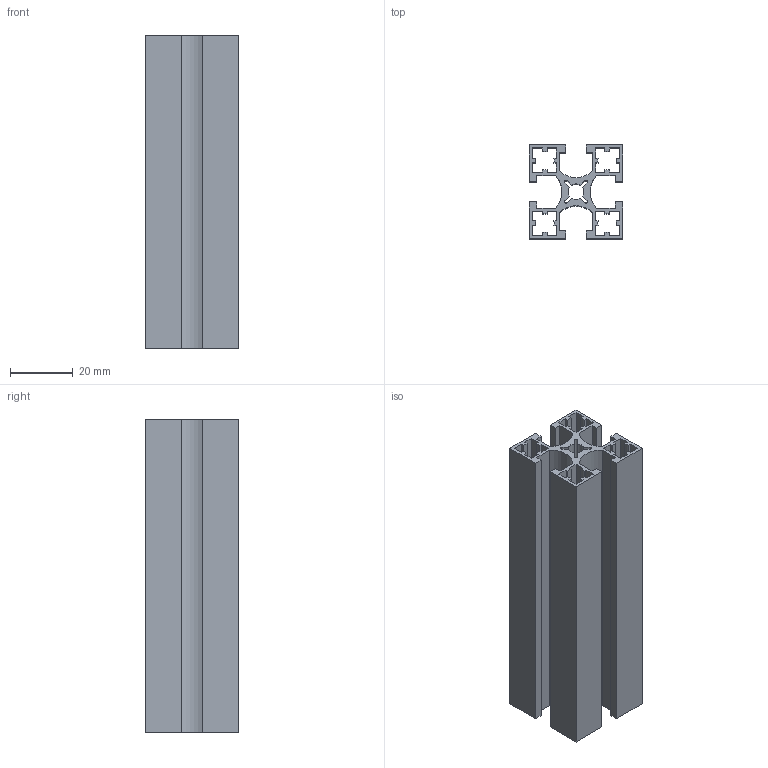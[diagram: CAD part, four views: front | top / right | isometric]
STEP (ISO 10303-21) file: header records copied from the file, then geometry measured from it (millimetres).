
FILE_DESCRIPTION(/* description */ ('Unknown'),/* implementation_level */ '2;1');
FILE_NAME(/* name */ 'NM3030A',/* time_stamp */ '2026-08-31T11:13:29+08:00',/* author */ ('Unknown'),/* organization */ ('Unknown'),/* preprocessor_version */ 'ST-DEVELOPER v16.7',/* originating_system */ 'DEX',/* authorisation */ $);
FILE_SCHEMA (('AUTOMOTIVE_DESIGN {1 0 10303 214 3 1 1}'));
Length unit declared in the file: millimetre
Products named in the file (1): 3030A
Bounding box: 30 x 30 x 100 mm (x, y, z)
Volume: 27929.2 mm3; surface area: 41863.2 mm2
Topology: 1 solids, 1 shells, 134 faces, 396 edges, 264 vertices
Faces by surface type: plane 106, cylinder 28
Entity records: 4486 total; most frequent: CARTESIAN_POINT 795, ORIENTED_EDGE 792, DIRECTION 722, EDGE_CURVE 396, LINE 340, VECTOR 340, VERTEX_POINT 264, AXIS2_PLACEMENT_3D 191
